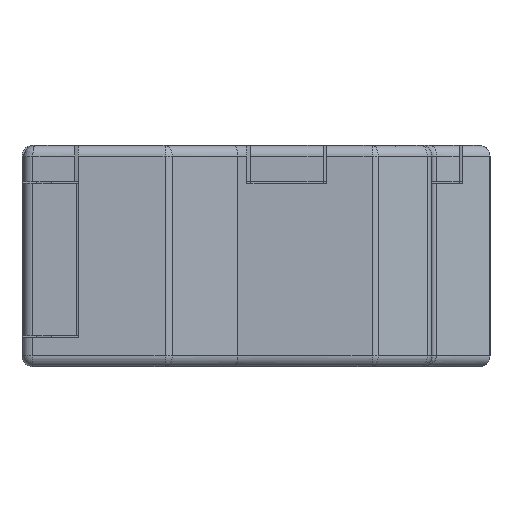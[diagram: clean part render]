
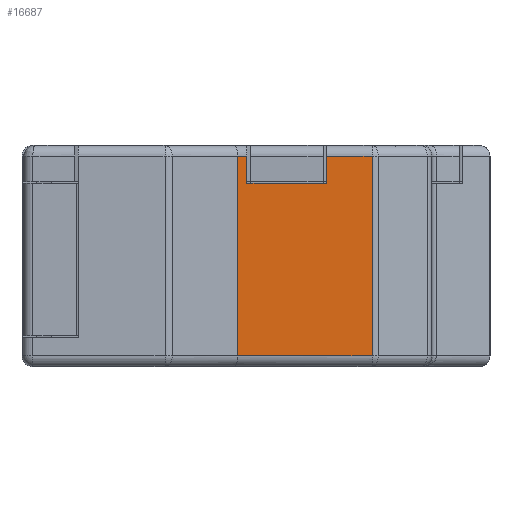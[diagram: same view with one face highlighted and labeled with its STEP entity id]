
A CAD part, left-side view. The second image highlights one B-rep face of the part: STEP entity #16687.
In plain terms, the highlighted planar face has unit normal (-1, 0, 0).
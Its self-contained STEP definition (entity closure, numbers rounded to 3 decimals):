
#678=FACE_OUTER_BOUND('',#1599,.T.);
#1599=EDGE_LOOP('',(#11376,#11377,#11378,#11379,#11380,#11381,#11382,#11383));
#2533=LINE('',#23585,#4519);
#2537=LINE('',#23613,#4523);
#2541=LINE('',#23630,#4527);
#2543=LINE('',#23636,#4529);
#2674=LINE('',#23961,#4660);
#2675=LINE('',#23963,#4661);
#2676=LINE('',#23965,#4662);
#2677=LINE('',#23966,#4663);
#4519=VECTOR('',#18939,0.255);
#4523=VECTOR('',#18975,3.704);
#4527=VECTOR('',#19003,5.5);
#4529=VECTOR('',#19009,5.5);
#4660=VECTOR('',#19300,1.249);
#4661=VECTOR('',#19301,0.75);
#4662=VECTOR('',#19302,2.2);
#4663=VECTOR('',#19303,0.75);
#6883=VERTEX_POINT('',#23583);
#6884=VERTEX_POINT('',#23584);
#6891=VERTEX_POINT('',#23610);
#6892=VERTEX_POINT('',#23612);
#6895=VERTEX_POINT('',#23634);
#6999=VERTEX_POINT('',#23960);
#7000=VERTEX_POINT('',#23962);
#7001=VERTEX_POINT('',#23964);
#8520=EDGE_CURVE('',#6883,#6884,#2533,.T.);
#8534=EDGE_CURVE('',#6891,#6892,#2537,.T.);
#8544=EDGE_CURVE('',#6883,#6892,#2541,.T.);
#8547=EDGE_CURVE('',#6895,#6891,#2543,.T.);
#8707=EDGE_CURVE('',#6999,#6895,#2674,.T.);
#8708=EDGE_CURVE('',#6999,#7000,#2675,.T.);
#8709=EDGE_CURVE('',#7000,#7001,#2676,.T.);
#8710=EDGE_CURVE('',#7001,#6884,#2677,.T.);
#11376=ORIENTED_EDGE('',*,*,#8520,.F.);
#11377=ORIENTED_EDGE('',*,*,#8544,.T.);
#11378=ORIENTED_EDGE('',*,*,#8534,.F.);
#11379=ORIENTED_EDGE('',*,*,#8547,.F.);
#11380=ORIENTED_EDGE('',*,*,#8707,.F.);
#11381=ORIENTED_EDGE('',*,*,#8708,.T.);
#11382=ORIENTED_EDGE('',*,*,#8709,.T.);
#11383=ORIENTED_EDGE('',*,*,#8710,.T.);
#16001=PLANE('',#17671);
#16687=ADVANCED_FACE('',(#678),#16001,.T.);
#17671=AXIS2_PLACEMENT_3D('',#23959,#19298,#19299);
#18939=DIRECTION('',(0.,-1.,0.));
#18975=DIRECTION('',(0.,1.,0.));
#19003=DIRECTION('',(0.,0.,-1.));
#19009=DIRECTION('',(0.,0.,-1.));
#19298=DIRECTION('center_axis',(-1.,0.,0.));
#19299=DIRECTION('ref_axis',(0.,0.,1.));
#19300=DIRECTION('',(0.,-1.,0.));
#19301=DIRECTION('',(0.,0.,-1.));
#19302=DIRECTION('',(0.,1.,0.));
#19303=DIRECTION('',(0.,0.,1.));
#23583=CARTESIAN_POINT('',(0.,6.955,5.85));
#23584=CARTESIAN_POINT('',(0.,6.7,5.85));
#23585=CARTESIAN_POINT('',(0.,2.425,5.85));
#23610=CARTESIAN_POINT('',(0.,3.251,0.35));
#23612=CARTESIAN_POINT('',(0.,6.955,0.35));
#23613=CARTESIAN_POINT('',(0.,6.05,0.35));
#23630=CARTESIAN_POINT('',(0.,6.955,6.15));
#23634=CARTESIAN_POINT('',(0.,3.251,5.85));
#23636=CARTESIAN_POINT('',(0.,3.251,0.025));
#23959=CARTESIAN_POINT('Origin',(0.,0.,0.));
#23960=CARTESIAN_POINT('',(0.,4.5,5.85));
#23961=CARTESIAN_POINT('',(0.,2.425,5.85));
#23962=CARTESIAN_POINT('',(0.,4.5,5.1));
#23963=CARTESIAN_POINT('',(0.,4.5,3.1));
#23964=CARTESIAN_POINT('',(0.,6.7,5.1));
#23965=CARTESIAN_POINT('',(0.,2.8,5.1));
#23966=CARTESIAN_POINT('',(0.,6.7,3.1));
